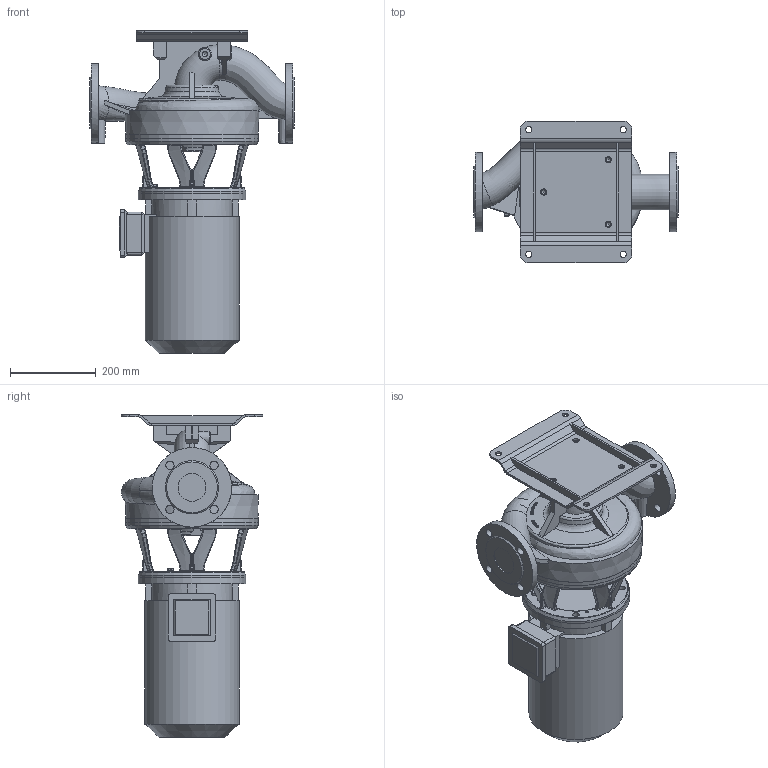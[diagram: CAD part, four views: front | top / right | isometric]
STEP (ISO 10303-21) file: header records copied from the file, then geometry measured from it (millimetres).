
FILE_DESCRIPTION (( 'STEP AP203' ), '1' );
FILE_NAME ('KI65-220_4_4kW.STEP', '2024-07-30T06:49:36', ( '' ), ( '' ), 'SwSTEP 2.0', 'SolidWorks 2023', '' );
FILE_SCHEMA (( 'CONFIG_CONTROL_DESIGN' ));
Length unit declared in the file: millimetre
Products named in the file (12): 220528; 230572; 440117_480130_solid; KI65-220_4_4kW; 230031; DIN EN 24017 - M8x12 Zn_ISO 4017 - M8 x 16-N; 220527; 230568; 230521; 230520; 230033; 230034
Assembly tree (12 placements, depth 3):
  KI65-220_4_4kW
    440117_480130_solid
    230521
      230520
    230568
      230572
    220528
      220527
    230034
      230031
      230033  x2
    DIN EN 24017 - M8x12 Zn_ISO 4017 - M8 x 16-N
Bounding box: 475 x 330.18 x 750.35 mm (x, y, z)
Volume: 27473537.1 mm3; surface area: 1528554 mm2
Topology: 8 solids, 8 shells, 1078 faces, 2745 edges, 1682 vertices
Faces by surface type: bspline 414, plane 316, cylinder 191, cone 88, torus 61, sphere 8
Full cylindrical faces by diameter (mm): 6 x2, 6.8 x8, 8 x1, 10 x4, 10.2 x11, 11.445 x1, 11.8 x3, 13 x1, 14 x16, 14.5 x7, 15 x8, 19 x8, 65 x2, 180 x1, 185 x2, 219 x1, 225 x1, 243 x1, 246 x1, 250 x2, 255 x2, 308 x2
Entity records: 97733 total; most frequent: CARTESIAN_POINT 74860, ORIENTED_EDGE 5034, DIRECTION 3419, EDGE_CURVE 2517, VERTEX_POINT 1614, AXIS2_PLACEMENT_3D 1379, EDGE_LOOP 1337, FACE_OUTER_BOUND 1161
